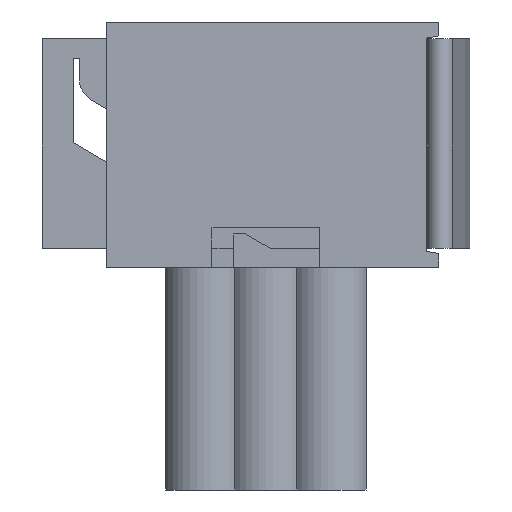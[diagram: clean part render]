
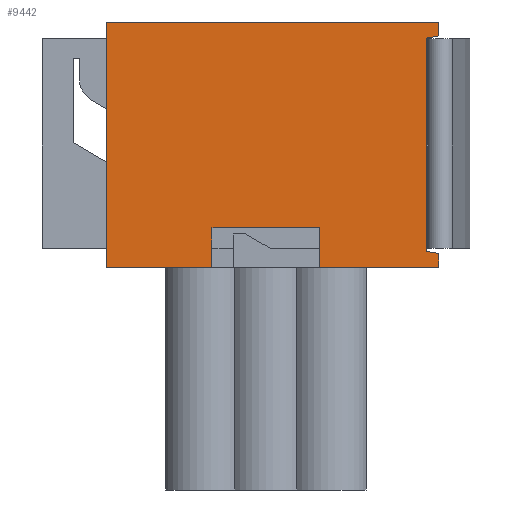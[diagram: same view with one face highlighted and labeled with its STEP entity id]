
A CAD part, front view. The second image highlights one B-rep face of the part: STEP entity #9442.
In plain terms, the highlighted planar face has unit normal (0, -1, 0).
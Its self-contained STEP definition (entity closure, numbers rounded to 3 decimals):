
#278=DIRECTION('',(1.,0.,0.));
#279=VECTOR('',#278,9.6);
#280=CARTESIAN_POINT('',(4.35,-12.15,-19.8));
#281=LINE('',#280,#279);
#322=DIRECTION('',(1.,0.,0.));
#323=VECTOR('',#322,8.5);
#324=CARTESIAN_POINT('',(-12.85,-12.15,-19.8));
#325=LINE('',#324,#323);
#1440=DIRECTION('',(1.,0.,0.));
#1441=VECTOR('',#1440,8.7);
#1442=CARTESIAN_POINT('',(-4.35,-12.15,-16.6));
#1443=LINE('',#1442,#1441);
#1444=DIRECTION('',(0.,0.,1.));
#1445=VECTOR('',#1444,3.2);
#1446=CARTESIAN_POINT('',(-4.35,-12.15,-19.8));
#1447=LINE('',#1446,#1445);
#1448=DIRECTION('',(0.,0.,-1.));
#1449=VECTOR('',#1448,19.8);
#1450=CARTESIAN_POINT('',(-12.85,-12.15,0.));
#1451=LINE('',#1450,#1449);
#1452=DIRECTION('',(0.,0.,-1.));
#1453=VECTOR('',#1452,1.124);
#1454=CARTESIAN_POINT('',(13.95,-12.15,0.));
#1455=LINE('',#1454,#1453);
#1456=DIRECTION('',(-0.985,0.,-0.174));
#1457=VECTOR('',#1456,1.015);
#1458=CARTESIAN_POINT('',(13.95,-12.15,-1.124));
#1459=LINE('',#1458,#1457);
#1460=DIRECTION('',(0.,0.,1.));
#1461=VECTOR('',#1460,17.2);
#1462=CARTESIAN_POINT('',(12.95,-12.15,-18.5));
#1463=LINE('',#1462,#1461);
#1464=DIRECTION('',(0.985,0.,-0.174));
#1465=VECTOR('',#1464,1.015);
#1466=CARTESIAN_POINT('',(12.95,-12.15,-18.5));
#1467=LINE('',#1466,#1465);
#1468=DIRECTION('',(0.,0.,-1.));
#1469=VECTOR('',#1468,1.124);
#1470=CARTESIAN_POINT('',(13.95,-12.15,-18.676));
#1471=LINE('',#1470,#1469);
#1472=DIRECTION('',(0.,0.,1.));
#1473=VECTOR('',#1472,3.2);
#1474=CARTESIAN_POINT('',(4.35,-12.15,-19.8));
#1475=LINE('',#1474,#1473);
#1540=DIRECTION('',(-1.,0.,0.));
#1541=VECTOR('',#1540,26.8);
#1542=CARTESIAN_POINT('',(13.95,-12.15,0.));
#1543=LINE('',#1542,#1541);
#6070=CARTESIAN_POINT('',(-12.85,-12.15,0.));
#6071=CARTESIAN_POINT('',(-12.85,-12.15,-19.8));
#6072=VERTEX_POINT('',#6070);
#6073=VERTEX_POINT('',#6071);
#6090=CARTESIAN_POINT('',(13.95,-12.15,-18.676));
#6091=CARTESIAN_POINT('',(13.95,-12.15,-19.8));
#6092=VERTEX_POINT('',#6090);
#6093=VERTEX_POINT('',#6091);
#6194=CARTESIAN_POINT('',(13.95,-12.15,0.));
#6195=CARTESIAN_POINT('',(13.95,-12.15,-1.124));
#6196=VERTEX_POINT('',#6194);
#6197=VERTEX_POINT('',#6195);
#6208=CARTESIAN_POINT('',(12.95,-12.15,-18.5));
#6209=CARTESIAN_POINT('',(12.95,-12.15,-1.3));
#6210=VERTEX_POINT('',#6208);
#6211=VERTEX_POINT('',#6209);
#7898=CARTESIAN_POINT('',(-4.35,-12.15,-16.6));
#7899=CARTESIAN_POINT('',(4.35,-12.15,-16.6));
#7900=VERTEX_POINT('',#7898);
#7901=VERTEX_POINT('',#7899);
#7902=CARTESIAN_POINT('',(4.35,-12.15,-19.8));
#7903=VERTEX_POINT('',#7902);
#7904=CARTESIAN_POINT('',(-4.35,-12.15,-19.8));
#7905=VERTEX_POINT('',#7904);
#9416=CARTESIAN_POINT('',(0.,-12.15,0.));
#9417=DIRECTION('',(0.,-1.,0.));
#9418=DIRECTION('',(1.,0.,0.));
#9419=AXIS2_PLACEMENT_3D('',#9416,#9417,#9418);
#9420=PLANE('',#9419);
#9421=ORIENTED_EDGE('',*,*,#8038,.F.);
#9422=ORIENTED_EDGE('',*,*,#9401,.F.);
#9423=ORIENTED_EDGE('',*,*,#8162,.F.);
#9425=ORIENTED_EDGE('',*,*,#9424,.F.);
#9427=ORIENTED_EDGE('',*,*,#9426,.F.);
#9429=ORIENTED_EDGE('',*,*,#9428,.T.);
#9431=ORIENTED_EDGE('',*,*,#9430,.T.);
#9433=ORIENTED_EDGE('',*,*,#9432,.F.);
#9435=ORIENTED_EDGE('',*,*,#9434,.T.);
#9437=ORIENTED_EDGE('',*,*,#9436,.T.);
#9438=ORIENTED_EDGE('',*,*,#8133,.F.);
#9439=ORIENTED_EDGE('',*,*,#9337,.T.);
#9440=EDGE_LOOP('',(#9421,#9422,#9423,#9425,#9427,#9429,#9431,#9433,#9435,#9437,
#9438,#9439));
#9441=FACE_OUTER_BOUND('',#9440,.F.);
#9442=ADVANCED_FACE('',(#9441),#9420,.T.);
#8038=EDGE_CURVE('',#7900,#7901,#1443,.T.);
#8133=EDGE_CURVE('',#7903,#6093,#281,.T.);
#8162=EDGE_CURVE('',#6073,#7905,#325,.T.);
#9337=EDGE_CURVE('',#7903,#7901,#1475,.T.);
#9401=EDGE_CURVE('',#7905,#7900,#1447,.T.);
#9424=EDGE_CURVE('',#6072,#6073,#1451,.T.);
#9426=EDGE_CURVE('',#6196,#6072,#1543,.T.);
#9428=EDGE_CURVE('',#6196,#6197,#1455,.T.);
#9430=EDGE_CURVE('',#6197,#6211,#1459,.T.);
#9432=EDGE_CURVE('',#6210,#6211,#1463,.T.);
#9434=EDGE_CURVE('',#6210,#6092,#1467,.T.);
#9436=EDGE_CURVE('',#6092,#6093,#1471,.T.);
